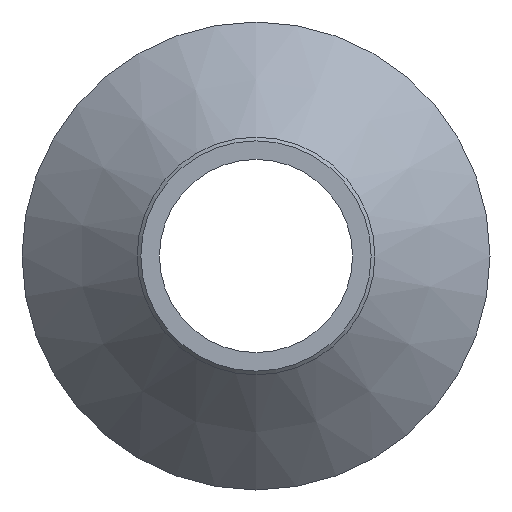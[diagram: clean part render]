
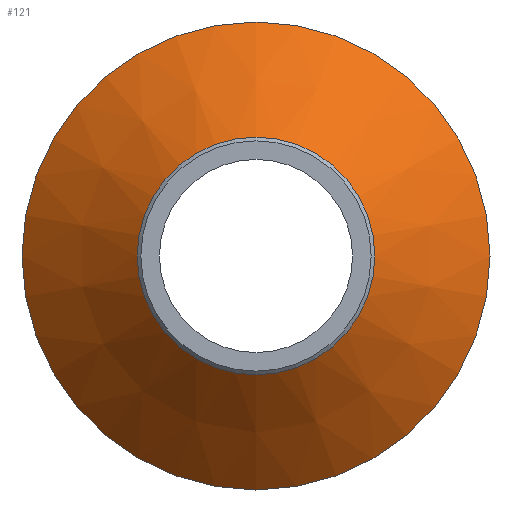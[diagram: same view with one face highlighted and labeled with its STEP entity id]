
A CAD part, left-side view. The second image highlights one B-rep face of the part: STEP entity #121.
In plain terms, the highlighted conical face has half-angle 45.939 degrees and reference radius 31.5 mm.
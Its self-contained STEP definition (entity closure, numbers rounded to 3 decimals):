
#22=CONICAL_SURFACE('',#146,31.5,0.802);
#28=ORIENTED_EDGE('',*,*,#48,.F.);
#29=ORIENTED_EDGE('',*,*,#47,.T.);
#47=EDGE_CURVE('',#57,#57,#67,.T.);
#48=EDGE_CURVE('',#58,#58,#68,.T.);
#57=VERTEX_POINT('',#210);
#58=VERTEX_POINT('',#213);
#67=CIRCLE('',#145,31.5);
#68=CIRCLE('',#147,16.);
#78=EDGE_LOOP('',(#28));
#79=EDGE_LOOP('',(#29));
#98=FACE_BOUND('',#78,.T.);
#99=FACE_BOUND('',#79,.T.);
#121=ADVANCED_FACE('',(#98,#99),#22,.T.);
#145=AXIS2_PLACEMENT_3D('',#209,#169,#170);
#146=AXIS2_PLACEMENT_3D('',#211,#171,#172);
#147=AXIS2_PLACEMENT_3D('',#212,#173,#174);
#169=DIRECTION('',(-1.,0.,0.));
#170=DIRECTION('',(0.,0.,1.));
#171=DIRECTION('',(1.,0.,0.));
#172=DIRECTION('',(0.,0.,-1.));
#173=DIRECTION('',(-1.,0.,0.));
#174=DIRECTION('',(0.,0.,1.));
#209=CARTESIAN_POINT('',(7.5,0.,0.));
#210=CARTESIAN_POINT('',(7.5,0.,31.5));
#211=CARTESIAN_POINT('',(7.5,0.,0.));
#212=CARTESIAN_POINT('',(-7.5,0.,0.));
#213=CARTESIAN_POINT('',(-7.5,0.,16.));
